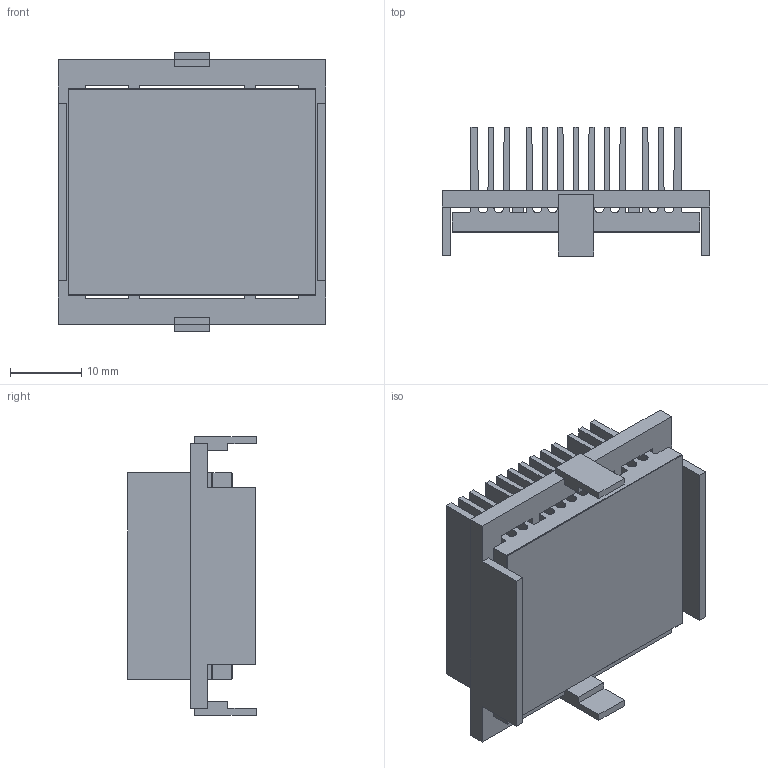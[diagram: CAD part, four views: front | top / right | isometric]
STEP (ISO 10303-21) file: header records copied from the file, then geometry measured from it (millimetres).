
FILE_DESCRIPTION (( 'STEP AP214' ), '1' );
FILE_NAME ('INH35001-15-2.6Y.STEP', '2023-02-17T22:46:37', ( '' ), ( '' ), 'SwSTEP 2.0', 'SolidWorks 2020', '' );
FILE_SCHEMA (( 'AUTOMOTIVE_DESIGN' ));
Length unit declared in the file: millimetre
Products named in the file (1): INH35001-15-2.6Y
Bounding box: 37.7 x 18.1 x 39.2 mm (x, y, z)
Volume: 8291.1 mm3; surface area: 16195.5 mm2
Topology: 3 solids, 3 shells, 148 faces, 426 edges, 284 vertices
Faces by surface type: plane 122, cylinder 26
Entity records: 6486 total; most frequent: CARTESIAN_POINT 859, ORIENTED_EDGE 852, DIRECTION 776, EDGE_CURVE 426, LINE 374, VECTOR 374, VERTEX_POINT 284, AXIS2_PLACEMENT_3D 201
